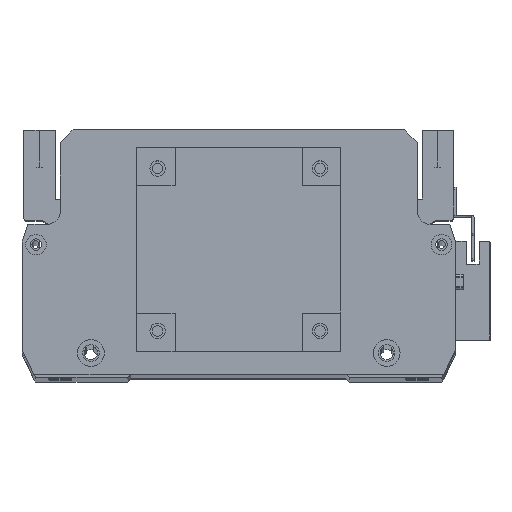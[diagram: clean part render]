
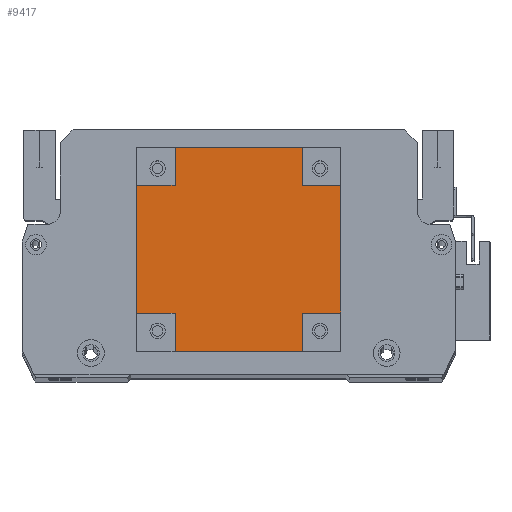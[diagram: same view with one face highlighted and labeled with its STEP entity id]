
A CAD part, top view. The second image highlights one B-rep face of the part: STEP entity #9417.
In plain terms, the highlighted planar face has unit normal (0, 0, 1).
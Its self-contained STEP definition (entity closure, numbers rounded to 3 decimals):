
#63 = DIRECTION ( 'NONE',  ( 0., 0., -1. ) ) ;
#131 = ORIENTED_EDGE ( 'NONE', *, *, #24560, .F. ) ;
#266 = ORIENTED_EDGE ( 'NONE', *, *, #24417, .F. ) ;
#1028 = ORIENTED_EDGE ( 'NONE', *, *, #24408, .F. ) ;
#2300 = DIRECTION ( 'NONE',  ( 0., 1., 0. ) ) ;
#2699 = ORIENTED_EDGE ( 'NONE', *, *, #23896, .T. ) ;
#3514 = CARTESIAN_POINT ( 'NONE',  ( 80., 15., 101.5 ) ) ;
#3592 = CARTESIAN_POINT ( 'NONE',  ( 65., 65., 101.5 ) ) ;
#4028 = VERTEX_POINT ( 'NONE', #10123 ) ;
#4095 = DIRECTION ( 'NONE',  ( -1., 0., 0. ) ) ;
#4593 = PLANE ( 'NONE',  #10487 ) ;
#4653 = VERTEX_POINT ( 'NONE', #16918 ) ;
#4734 = CARTESIAN_POINT ( 'NONE',  ( 80., 65., 101.5 ) ) ;
#4735 = DIRECTION ( 'NONE',  ( -1., 0., 0. ) ) ;
#5422 = CARTESIAN_POINT ( 'NONE',  ( 65., 0., 101.5 ) ) ;
#5513 = DIRECTION ( 'NONE',  ( -1., 0., 0. ) ) ;
#5849 = ORIENTED_EDGE ( 'NONE', *, *, #24456, .F. ) ;
#5860 = VERTEX_POINT ( 'NONE', #3514 ) ;
#6099 = CARTESIAN_POINT ( 'NONE',  ( 0., 0., 101.5 ) ) ;
#6135 = CARTESIAN_POINT ( 'NONE',  ( 15., 0., 101.5 ) ) ;
#6603 = DIRECTION ( 'NONE',  ( -1., 0., 0. ) ) ;
#6921 = LINE ( 'NONE', #10947, #21758 ) ;
#7961 = CARTESIAN_POINT ( 'NONE',  ( 65., 80., 101.5 ) ) ;
#8535 = VECTOR ( 'NONE', #4735, 1000. ) ;
#9066 = ORIENTED_EDGE ( 'NONE', *, *, #23739, .T. ) ;
#9417 = ADVANCED_FACE ( 'NONE', ( #26494 ), #4593, .F. ) ;
#10123 = CARTESIAN_POINT ( 'NONE',  ( 15., 65., 101.5 ) ) ;
#10189 = VERTEX_POINT ( 'NONE', #4734 ) ;
#10395 = ORIENTED_EDGE ( 'NONE', *, *, #24488, .F. ) ;
#10487 = AXIS2_PLACEMENT_3D ( 'NONE', #14773, #63, #6603 ) ;
#10947 = CARTESIAN_POINT ( 'NONE',  ( 80., 0., 101.5 ) ) ;
#11335 = ORIENTED_EDGE ( 'NONE', *, *, #24633, .F. ) ;
#11434 = VECTOR ( 'NONE', #18302, 1000. ) ;
#11742 = LINE ( 'NONE', #12692, #26325 ) ;
#12394 = ORIENTED_EDGE ( 'NONE', *, *, #24303, .T. ) ;
#12692 = CARTESIAN_POINT ( 'NONE',  ( 15., 80., 101.5 ) ) ;
#12983 = DIRECTION ( 'NONE',  ( 0., 1., 0. ) ) ;
#13063 = ORIENTED_EDGE ( 'NONE', *, *, #24719, .F. ) ;
#13314 = VERTEX_POINT ( 'NONE', #22077 ) ;
#13713 = VERTEX_POINT ( 'NONE', #17178 ) ;
#13812 = DIRECTION ( 'NONE',  ( 0., -1., 0. ) ) ;
#13935 = LINE ( 'NONE', #19035, #23237 ) ;
#14269 = LINE ( 'NONE', #24285, #18998 ) ;
#14352 = ORIENTED_EDGE ( 'NONE', *, *, #24570, .F. ) ;
#14737 = CARTESIAN_POINT ( 'NONE',  ( 0., 65., 101.5 ) ) ;
#14773 = CARTESIAN_POINT ( 'NONE',  ( 0., 0., 101.5 ) ) ;
#15752 = VERTEX_POINT ( 'NONE', #18923 ) ;
#15892 = LINE ( 'NONE', #14737, #19890 ) ;
#16193 = VECTOR ( 'NONE', #21146, 1000. ) ;
#16916 = ORIENTED_EDGE ( 'NONE', *, *, #23535, .T. ) ;
#16918 = CARTESIAN_POINT ( 'NONE',  ( 65., 80., 101.5 ) ) ;
#17110 = LINE ( 'NONE', #7961, #21706 ) ;
#17178 = CARTESIAN_POINT ( 'NONE',  ( 15., 15., 101.5 ) ) ;
#17185 = LINE ( 'NONE', #25604, #21782 ) ;
#17436 = LINE ( 'NONE', #5422, #16193 ) ;
#17735 = CARTESIAN_POINT ( 'NONE',  ( 80., 15., 101.5 ) ) ;
#18302 = DIRECTION ( 'NONE',  ( 1., 0., 0. ) ) ;
#18558 = VERTEX_POINT ( 'NONE', #26155 ) ;
#18923 = CARTESIAN_POINT ( 'NONE',  ( 0., 15., 101.5 ) ) ;
#18998 = VECTOR ( 'NONE', #4095, 1000. ) ;
#19035 = CARTESIAN_POINT ( 'NONE',  ( 15., 0., 101.5 ) ) ;
#19074 = VERTEX_POINT ( 'NONE', #25719 ) ;
#19292 = LINE ( 'NONE', #24791, #8535 ) ;
#19890 = VECTOR ( 'NONE', #22698, 1000. ) ;
#20246 = EDGE_LOOP ( 'NONE', ( #12394, #1028, #266, #16916, #5849, #10395, #9066, #131, #14352, #2699, #11335, #13063 ) ) ;
#21081 = VERTEX_POINT ( 'NONE', #21594 ) ;
#21146 = DIRECTION ( 'NONE',  ( 0., -1., 0. ) ) ;
#21410 = VECTOR ( 'NONE', #5513, 1000. ) ;
#21456 = LINE ( 'NONE', #6099, #11434 ) ;
#21594 = CARTESIAN_POINT ( 'NONE',  ( 65., 0., 101.5 ) ) ;
#21706 = VECTOR ( 'NONE', #26047, 1000. ) ;
#21758 = VECTOR ( 'NONE', #12983, 1000. ) ;
#21782 = VECTOR ( 'NONE', #13812, 1000. ) ;
#22077 = CARTESIAN_POINT ( 'NONE',  ( 65., 65., 101.5 ) ) ;
#22698 = DIRECTION ( 'NONE',  ( 1., 0., 0. ) ) ;
#22858 = DIRECTION ( 'NONE',  ( 0., 1., 0. ) ) ;
#23237 = VECTOR ( 'NONE', #22858, 1000. ) ;
#23247 = VERTEX_POINT ( 'NONE', #6135 ) ;
#23535 = EDGE_CURVE ( 'NONE', #25284, #15752, #17185, .T. ) ;
#23739 = EDGE_CURVE ( 'NONE', #23247, #21081, #21456, .T. ) ;
#23896 = EDGE_CURVE ( 'NONE', #5860, #10189, #6921, .T. ) ;
#24285 = CARTESIAN_POINT ( 'NONE',  ( 0., 80., 101.5 ) ) ;
#24303 = EDGE_CURVE ( 'NONE', #4653, #18558, #14269, .T. ) ;
#24408 = EDGE_CURVE ( 'NONE', #4028, #18558, #11742, .T. ) ;
#24417 = EDGE_CURVE ( 'NONE', #25284, #4028, #15892, .T. ) ;
#24456 = EDGE_CURVE ( 'NONE', #13713, #15752, #19292, .T. ) ;
#24488 = EDGE_CURVE ( 'NONE', #23247, #13713, #13935, .T. ) ;
#24518 = CARTESIAN_POINT ( 'NONE',  ( 0., 65., 101.5 ) ) ;
#24560 = EDGE_CURVE ( 'NONE', #19074, #21081, #17436, .T. ) ;
#24570 = EDGE_CURVE ( 'NONE', #5860, #19074, #26020, .T. ) ;
#24633 = EDGE_CURVE ( 'NONE', #13314, #10189, #25409, .T. ) ;
#24719 = EDGE_CURVE ( 'NONE', #4653, #13314, #17110, .T. ) ;
#24791 = CARTESIAN_POINT ( 'NONE',  ( 0., 15., 101.5 ) ) ;
#24808 = VECTOR ( 'NONE', #25788, 1000. ) ;
#25284 = VERTEX_POINT ( 'NONE', #24518 ) ;
#25409 = LINE ( 'NONE', #3592, #24808 ) ;
#25604 = CARTESIAN_POINT ( 'NONE',  ( 0., 0., 101.5 ) ) ;
#25719 = CARTESIAN_POINT ( 'NONE',  ( 65., 15., 101.5 ) ) ;
#25788 = DIRECTION ( 'NONE',  ( 1., 0., 0. ) ) ;
#26020 = LINE ( 'NONE', #17735, #21410 ) ;
#26047 = DIRECTION ( 'NONE',  ( 0., -1., 0. ) ) ;
#26155 = CARTESIAN_POINT ( 'NONE',  ( 15., 80., 101.5 ) ) ;
#26325 = VECTOR ( 'NONE', #2300, 1000. ) ;
#26494 = FACE_OUTER_BOUND ( 'NONE', #20246, .T. ) ;
